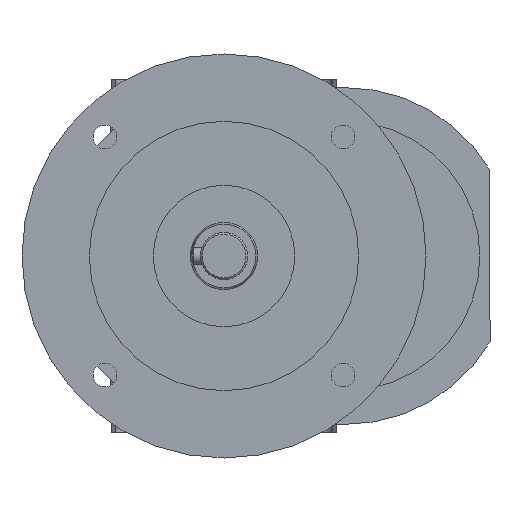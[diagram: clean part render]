
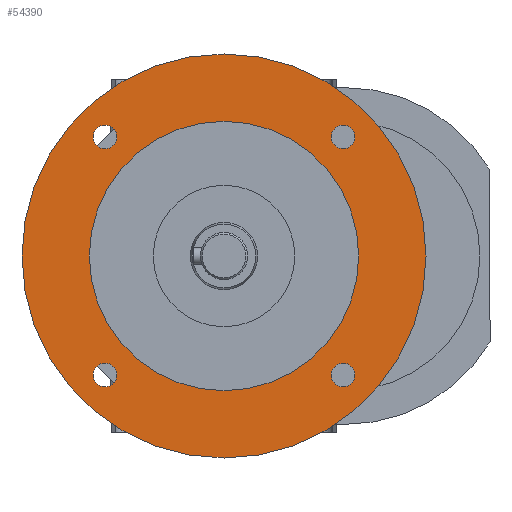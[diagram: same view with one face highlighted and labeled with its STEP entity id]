
A CAD part, left-side view. The second image highlights one B-rep face of the part: STEP entity #54390.
In plain terms, the highlighted planar face has unit normal (-1, 0, 0) as drawn and (0, 1, -0.026) by its records, which use the part's own axes.
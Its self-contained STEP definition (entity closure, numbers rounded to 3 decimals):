
#53310=CARTESIAN_POINT('',(-124.,708.788,
-141.128));
#53320=VERTEX_POINT('',#53310);
#53400=CARTESIAN_POINT('',(-4.,708.788,
-141.128));
#53410=VERTEX_POINT('',#53400);
#53440=CARTESIAN_POINT('',(-64.,708.788,
-141.128));
#53450=DIRECTION('',(0.,1.,
-0.026));
#53460=DIRECTION('',(-1.,0.,0.));
#53470=AXIS2_PLACEMENT_3D('',#53440,#53450,#53460);
#53480=CIRCLE('',#53470,60.);
#53490=EDGE_CURVE('',#53410,#53320,#53480,.T.);
#53540=CARTESIAN_POINT('',(-78.332,708.93,
-135.714));
#53550=DIRECTION('',(0.,1.,
-0.026));
#53560=DIRECTION('',(-1.,0.,0.));
#53570=AXIS2_PLACEMENT_3D('',#53540,#53550,#53560);
#53580=PLANE('',#53570);
#53590=EDGE_CURVE('',#53320,#53410,#53480,.T.);
#53600=ORIENTED_EDGE('',*,*,#53590,.T.);
#53610=ORIENTED_EDGE('',*,*,#53490,.T.);
#53620=EDGE_LOOP('',(#53610,#53600));
#53630=FACE_OUTER_BOUND('',#53620,.T.);
#53640=CARTESIAN_POINT('',(-64.,708.788,
-141.128));
#53650=DIRECTION('',(0.,1.,
-0.026));
#53660=DIRECTION('',(-1.,0.,0.));
#53670=AXIS2_PLACEMENT_3D('',#53640,#53650,#53660);
#53680=CIRCLE('',#53670,40.);
#53690=CARTESIAN_POINT('',(-24.,708.788,
-141.128));
#53700=VERTEX_POINT('',#53690);
#53710=CARTESIAN_POINT('',(-104.,708.788,
-141.128));
#53720=VERTEX_POINT('',#53710);
#53730=EDGE_CURVE('',#53700,#53720,#53680,.T.);
#53740=ORIENTED_EDGE('',*,*,#53730,.F.);
#53750=EDGE_CURVE('',#53720,#53700,#53680,.T.);
#53760=ORIENTED_EDGE('',*,*,#53750,.F.);
#53770=EDGE_LOOP('',(#53760,#53740));
#53780=FACE_BOUND('',#53770,.T.);
#53790=CARTESIAN_POINT('',(-28.645,707.863,
-176.472));
#53800=DIRECTION('',(0.,1.,
-0.026));
#53810=DIRECTION('',(-1.,0.,0.));
#53820=AXIS2_PLACEMENT_3D('',#53790,#53800,#53810);
#53830=CIRCLE('',#53820,3.5);
#53840=CARTESIAN_POINT('',(-32.145,707.863,
-176.472));
#53850=VERTEX_POINT('',#53840);
#53860=CARTESIAN_POINT('',(-25.145,707.863,
-176.472));
#53870=VERTEX_POINT('',#53860);
#53880=EDGE_CURVE('',#53850,#53870,#53830,.T.);
#53890=ORIENTED_EDGE('',*,*,#53880,.F.);
#53900=EDGE_CURVE('',#53870,#53850,#53830,.T.);
#53910=ORIENTED_EDGE('',*,*,#53900,.F.);
#53920=EDGE_LOOP('',(#53910,#53890));
#53930=FACE_BOUND('',#53920,.T.);
#53940=CARTESIAN_POINT('',(-99.355,709.714,
-105.785));
#53950=DIRECTION('',(0.,1.,
-0.026));
#53960=DIRECTION('',(-1.,0.,0.));
#53970=AXIS2_PLACEMENT_3D('',#53940,#53950,#53960);
#53980=CIRCLE('',#53970,3.5);
#53990=CARTESIAN_POINT('',(-102.855,709.714,
-105.785));
#54000=VERTEX_POINT('',#53990);
#54010=CARTESIAN_POINT('',(-95.855,709.714,
-105.785));
#54020=VERTEX_POINT('',#54010);
#54030=EDGE_CURVE('',#54000,#54020,#53980,.T.);
#54040=ORIENTED_EDGE('',*,*,#54030,.F.);
#54050=EDGE_CURVE('',#54020,#54000,#53980,.T.);
#54060=ORIENTED_EDGE('',*,*,#54050,.F.);
#54070=EDGE_LOOP('',(#54060,#54040));
#54080=FACE_BOUND('',#54070,.T.);
#54090=CARTESIAN_POINT('',(-99.355,707.863,
-176.472));
#54100=DIRECTION('',(0.,1.,
-0.026));
#54110=DIRECTION('',(-1.,0.,0.));
#54120=AXIS2_PLACEMENT_3D('',#54090,#54100,#54110);
#54130=CIRCLE('',#54120,3.5);
#54140=CARTESIAN_POINT('',(-102.855,707.863,
-176.472));
#54150=VERTEX_POINT('',#54140);
#54160=CARTESIAN_POINT('',(-95.855,707.863,
-176.472));
#54170=VERTEX_POINT('',#54160);
#54180=EDGE_CURVE('',#54150,#54170,#54130,.T.);
#54190=ORIENTED_EDGE('',*,*,#54180,.F.);
#54200=EDGE_CURVE('',#54170,#54150,#54130,.T.);
#54210=ORIENTED_EDGE('',*,*,#54200,.F.);
#54220=EDGE_LOOP('',(#54210,#54190));
#54230=FACE_BOUND('',#54220,.T.);
#54240=CARTESIAN_POINT('',(-28.645,709.714,
-105.785));
#54250=DIRECTION('',(0.,1.,
-0.026));
#54260=DIRECTION('',(-1.,0.,0.));
#54270=AXIS2_PLACEMENT_3D('',#54240,#54250,#54260);
#54280=CIRCLE('',#54270,3.5);
#54290=CARTESIAN_POINT('',(-32.145,709.714,
-105.785));
#54300=VERTEX_POINT('',#54290);
#54310=CARTESIAN_POINT('',(-25.145,709.714,
-105.785));
#54320=VERTEX_POINT('',#54310);
#54330=EDGE_CURVE('',#54300,#54320,#54280,.T.);
#54340=ORIENTED_EDGE('',*,*,#54330,.F.);
#54350=EDGE_CURVE('',#54320,#54300,#54280,.T.);
#54360=ORIENTED_EDGE('',*,*,#54350,.F.);
#54370=EDGE_LOOP('',(#54360,#54340));
#54380=FACE_BOUND('',#54370,.T.);
#54390=ADVANCED_FACE('',(#53630,#53780,#53930,#54080,#54230,#54380),
#53580,.T.);
